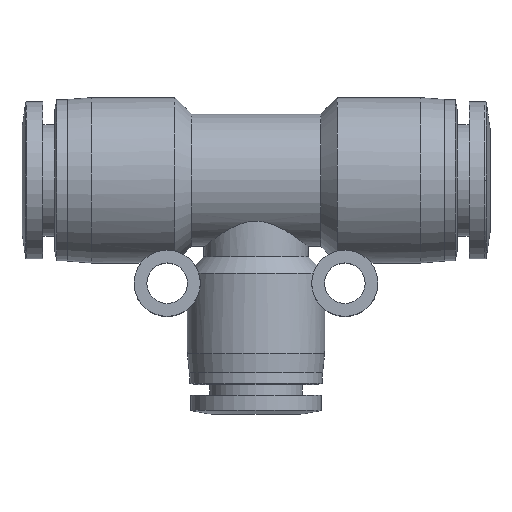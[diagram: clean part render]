
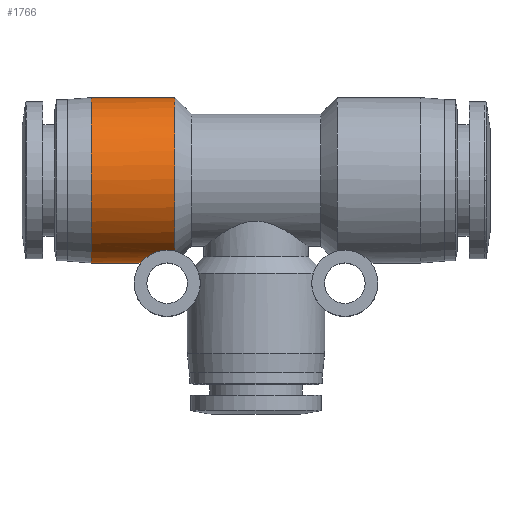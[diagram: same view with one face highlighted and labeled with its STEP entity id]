
A CAD part, top view. The second image highlights one B-rep face of the part: STEP entity #1766.
In plain terms, the highlighted cylindrical face has radius 8.75 mm (diameter 17.5 mm), a partial arc.
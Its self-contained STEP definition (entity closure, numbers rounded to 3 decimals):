
#60 = CARTESIAN_POINT ( 'NONE',  ( -11.602, -8.176, 3.127 ) ) ;
#103 = AXIS2_PLACEMENT_3D ( 'NONE', #1326, #2747, #1953 ) ;
#115 = CARTESIAN_POINT ( 'NONE',  ( -10.089, -7.467, 4.561 ) ) ;
#132 = CARTESIAN_POINT ( 'NONE',  ( -12.002, -8.559, 1.82 ) ) ;
#320 = LINE ( 'NONE', #2465, #898 ) ;
#362 = CARTESIAN_POINT ( 'NONE',  ( -11.065, -7.818, 3.931 ) ) ;
#395 = CARTESIAN_POINT ( 'NONE',  ( -11.707, -8.264, 2.888 ) ) ;
#414 = CARTESIAN_POINT ( 'NONE',  ( -12.013, -8.571, 1.759 ) ) ;
#440 = DIRECTION ( 'NONE',  ( 1., 0., 0. ) ) ;
#531 = CARTESIAN_POINT ( 'NONE',  ( -12.162, -8.75, 0. ) ) ;
#579 = ORIENTED_EDGE ( 'NONE', *, *, #1264, .T. ) ;
#610 = CARTESIAN_POINT ( 'NONE',  ( -8.6, -7.493, 4.519 ) ) ;
#635 = CARTESIAN_POINT ( 'NONE',  ( -13., -8.75, 0. ) ) ;
#669 = CARTESIAN_POINT ( 'NONE',  ( -9.62, -7.404, 4.663 ) ) ;
#687 = CARTESIAN_POINT ( 'NONE',  ( -12.113, -8.683, 1.212 ) ) ;
#727 = CARTESIAN_POINT ( 'NONE',  ( -11.449, -8.062, 3.4 ) ) ;
#776 = CIRCLE ( 'NONE', #103, 8.75 ) ;
#809 = DIRECTION ( 'NONE',  ( 0., 1., 0. ) ) ;
#898 = VECTOR ( 'NONE', #938, 1000. ) ;
#938 = DIRECTION ( 'NONE',  ( 1., 0., 0. ) ) ;
#946 = CARTESIAN_POINT ( 'NONE',  ( -11.961, -8.514, 2.022 ) ) ;
#968 = CARTESIAN_POINT ( 'NONE',  ( -10.274, -7.511, 4.489 ) ) ;
#1025 = CARTESIAN_POINT ( 'NONE',  ( -11.473, -8.08, 3.358 ) ) ;
#1048 = CARTESIAN_POINT ( 'NONE',  ( -17.4, -8.75, 0. ) ) ;
#1072 = CARTESIAN_POINT ( 'NONE',  ( -17.4, 0., 0. ) ) ;
#1164 = B_SPLINE_CURVE_WITH_KNOTS ( 'NONE', 3,
 ( #3669, #3386, #687, #414, #2802, #1894, #132, #3651, #946, #3076, #1323, #2148, #395, #60, #3706, #1025, #3346, #727, #1598, #2724, #3034, #2783, #362, #1577, #1249, #2433, #1560, #1269, #968, #2170, #115, #3365, #1306, #669, #1876, #3054, #2486 ),
 .UNSPECIFIED., .F., .F.,
 ( 4, 2, 2, 1, 1, 1, 2, 2, 2, 2, 1, 1, 1, 2, 2, 2, 2, 1, 1, 1, 2, 2, 4 ),
 ( 0.5, 0.625, 0.627, 0.629, 0.633, 0.641, 0.656, 0.687, 0.75, 0.752, 0.754, 0.758, 0.766, 0.781, 0.812, 0.875, 0.877, 0.879, 0.883, 0.891, 0.906, 0.937, 1. ),
 .UNSPECIFIED. ) ;
#1249 = CARTESIAN_POINT ( 'NONE',  ( -10.566, -7.591, 4.354 ) ) ;
#1264 = EDGE_CURVE ( 'NONE', #2963, #3731, #3620, .T. ) ;
#1269 = CARTESIAN_POINT ( 'NONE',  ( -10.3, -7.518, 4.477 ) ) ;
#1306 = CARTESIAN_POINT ( 'NONE',  ( -9.767, -7.416, 4.644 ) ) ;
#1323 = CARTESIAN_POINT ( 'NONE',  ( -11.88, -8.429, 2.351 ) ) ;
#1326 = CARTESIAN_POINT ( 'NONE',  ( -8.6, 0., 0. ) ) ;
#1455 = EDGE_CURVE ( 'NONE', #2683, #2539, #776, .T. ) ;
#1505 = DIRECTION ( 'NONE',  ( 1., 0., 0. ) ) ;
#1554 = FACE_OUTER_BOUND ( 'NONE', #2288, .T. ) ;
#1560 = CARTESIAN_POINT ( 'NONE',  ( -10.317, -7.522, 4.469 ) ) ;
#1577 = CARTESIAN_POINT ( 'NONE',  ( -10.778, -7.674, 4.209 ) ) ;
#1591 = CYLINDRICAL_SURFACE ( 'NONE', #1637, 8.75 ) ;
#1598 = CARTESIAN_POINT ( 'NONE',  ( -11.415, -8.038, 3.457 ) ) ;
#1637 = AXIS2_PLACEMENT_3D ( 'NONE', #2734, #2124, #3316 ) ;
#1766 = ADVANCED_FACE ( 'NONE', ( #1554 ), #1591, .T. ) ;
#1876 = CARTESIAN_POINT ( 'NONE',  ( -9.173, -7.394, 4.678 ) ) ;
#1894 = CARTESIAN_POINT ( 'NONE',  ( -12.007, -8.565, 1.79 ) ) ;
#1902 = CIRCLE ( 'NONE', #2396, 8.75 ) ;
#1953 = DIRECTION ( 'NONE',  ( 0., 1., 0. ) ) ;
#2014 = VECTOR ( 'NONE', #1505, 1000. ) ;
#2017 = CARTESIAN_POINT ( 'NONE',  ( -8.6, 8.75, 0. ) ) ;
#2038 = ORIENTED_EDGE ( 'NONE', *, *, #1455, .F. ) ;
#2124 = DIRECTION ( 'NONE',  ( 1., 0., 0. ) ) ;
#2148 = CARTESIAN_POINT ( 'NONE',  ( -11.84, -8.389, 2.49 ) ) ;
#2170 = CARTESIAN_POINT ( 'NONE',  ( -10.212, -7.495, 4.515 ) ) ;
#2186 = ORIENTED_EDGE ( 'NONE', *, *, #3619, .T. ) ;
#2288 = EDGE_LOOP ( 'NONE', ( #2580, #579, #2186, #2038, #3840 ) ) ;
#2396 = AXIS2_PLACEMENT_3D ( 'NONE', #1072, #440, #809 ) ;
#2433 = CARTESIAN_POINT ( 'NONE',  ( -10.327, -7.525, 4.465 ) ) ;
#2465 = CARTESIAN_POINT ( 'NONE',  ( -13., 8.75, 0. ) ) ;
#2486 = CARTESIAN_POINT ( 'NONE',  ( -8.6, -7.493, 4.519 ) ) ;
#2539 = VERTEX_POINT ( 'NONE', #610 ) ;
#2580 = ORIENTED_EDGE ( 'NONE', *, *, #2744, .T. ) ;
#2683 = VERTEX_POINT ( 'NONE', #2017 ) ;
#2724 = CARTESIAN_POINT ( 'NONE',  ( -11.346, -7.99, 3.568 ) ) ;
#2734 = CARTESIAN_POINT ( 'NONE',  ( -13., 0., 0. ) ) ;
#2744 = EDGE_CURVE ( 'NONE', #3816, #2963, #1902, .T. ) ;
#2747 = DIRECTION ( 'NONE',  ( 1., 0., 0. ) ) ;
#2783 = CARTESIAN_POINT ( 'NONE',  ( -11.155, -7.869, 3.828 ) ) ;
#2802 = CARTESIAN_POINT ( 'NONE',  ( -12.011, -8.569, 1.771 ) ) ;
#2963 = VERTEX_POINT ( 'NONE', #1048 ) ;
#3034 = CARTESIAN_POINT ( 'NONE',  ( -11.283, -7.949, 3.658 ) ) ;
#3054 = CARTESIAN_POINT ( 'NONE',  ( -8.883, -7.426, 4.629 ) ) ;
#3076 = CARTESIAN_POINT ( 'NONE',  ( -11.935, -8.486, 2.134 ) ) ;
#3165 = EDGE_CURVE ( 'NONE', #3816, #2683, #320, .T. ) ;
#3316 = DIRECTION ( 'NONE',  ( 0., 1., 0. ) ) ;
#3346 = CARTESIAN_POINT ( 'NONE',  ( -11.463, -8.073, 3.375 ) ) ;
#3365 = CARTESIAN_POINT ( 'NONE',  ( -9.982, -7.448, 4.592 ) ) ;
#3386 = CARTESIAN_POINT ( 'NONE',  ( -12.162, -8.75, 0.624 ) ) ;
#3619 = EDGE_CURVE ( 'NONE', #3731, #2539, #1164, .T. ) ;
#3620 = LINE ( 'NONE', #635, #2014 ) ;
#3651 = CARTESIAN_POINT ( 'NONE',  ( -11.989, -8.544, 1.888 ) ) ;
#3669 = CARTESIAN_POINT ( 'NONE',  ( -12.162, -8.75, 0. ) ) ;
#3706 = CARTESIAN_POINT ( 'NONE',  ( -11.479, -8.084, 3.348 ) ) ;
#3731 = VERTEX_POINT ( 'NONE', #531 ) ;
#3816 = VERTEX_POINT ( 'NONE', #3843 ) ;
#3840 = ORIENTED_EDGE ( 'NONE', *, *, #3165, .F. ) ;
#3843 = CARTESIAN_POINT ( 'NONE',  ( -17.4, 8.75, 0. ) ) ;
